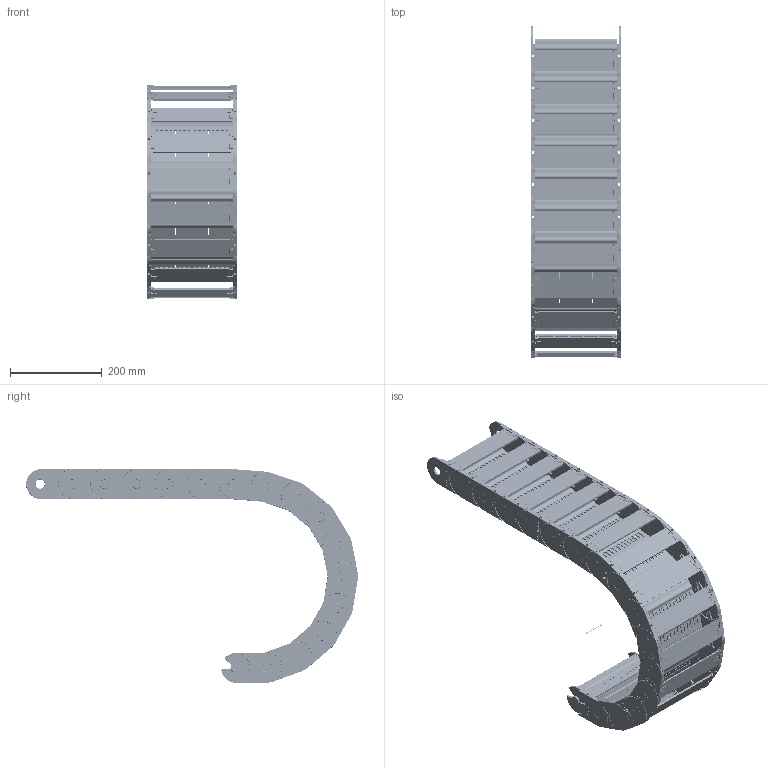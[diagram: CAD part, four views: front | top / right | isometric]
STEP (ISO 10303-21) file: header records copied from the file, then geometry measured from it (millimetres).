
FILE_DESCRIPTION((''),'2;1');
FILE_NAME('C:\Uebbing\PARAMETERKETTEN\KOLIBRI\Kol_65_195_1\Kol_65_195_1_R200.stp','2012-03-06T09:32:16',('Uebbing'),(''),'Autodesk Inventor 10','Autodesk Inventor 10','');
FILE_SCHEMA(('AUTOMOTIVE_DESIGN { 1 0 10303 214 1 1 1 1 }'));
Length unit declared in the file: millimetre
Products named in the file (5): KOLIBRI 65_195_1_PARAMETRISCH; Achse; Kol_65_195_1; Kol_65_195_5 Lasche; Kol_65_195_1 Klappsteg
Assembly tree (19 placements, depth 3):
  KOLIBRI 65_195_1_PARAMETRISCH
    Achse
    Kol_65_195_1  x16
      Kol_65_195_5 Lasche
      Kol_65_195_1 Klappsteg
Bounding box: 195 x 722.31 x 465 mm (x, y, z)
Volume: 1946609.5 mm3; surface area: 1395606.8 mm2
Topology: 33 solids, 33 shells, 10707 faces, 29396 edges, 18883 vertices
Faces by surface type: plane 4498, bspline 4048, cylinder 1713, torus 352, cone 64, sphere 32
Full cylindrical faces by diameter (mm): 1 x1, 2.514 x16, 4 x48, 4.414 x16, 6 x16, 20 x32
Entity records: 22831 total; most frequent: CARTESIAN_POINT 6258, ORIENTED_EDGE 3608, DIRECTION 3051, EDGE_CURVE 1804, VECTOR 1343, LINE 1343, VERTEX_POINT 1171, AXIS2_PLACEMENT_3D 854
